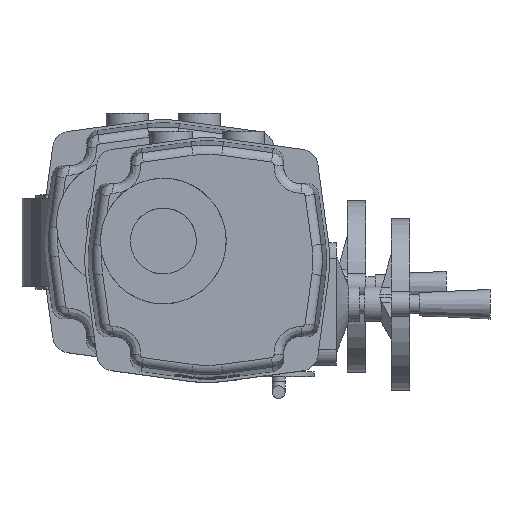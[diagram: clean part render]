
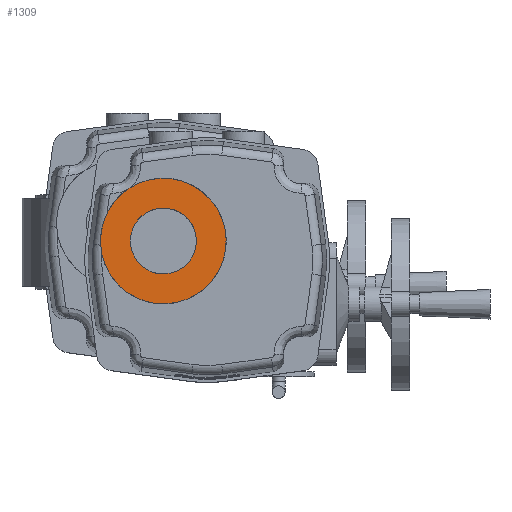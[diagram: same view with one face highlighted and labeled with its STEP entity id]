
A CAD part, top view. The second image highlights one B-rep face of the part: STEP entity #1309.
In plain terms, the highlighted planar face has unit normal (0, 0, 1).
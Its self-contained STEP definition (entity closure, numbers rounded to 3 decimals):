
#1309 = ADVANCED_FACE( '', ( #2810, #2811 ), #2812, .F. );
#2810 = FACE_BOUND( '', #8010, .T. );
#2811 = FACE_OUTER_BOUND( '', #8011, .T. );
#2812 = PLANE( '', #8012 );
#8010 = EDGE_LOOP( '', ( #12747 ) );
#8011 = EDGE_LOOP( '', ( #12748 ) );
#8012 = AXIS2_PLACEMENT_3D( '', #12749, #12750, #12751 );
#12747 = ORIENTED_EDGE( '', *, *, #15346, .T. );
#12748 = ORIENTED_EDGE( '', *, *, #15092, .F. );
#12749 = CARTESIAN_POINT( '', ( -28., 12., 120. ) );
#12750 = DIRECTION( '', ( 0., 0., -1. ) );
#12751 = DIRECTION( '', ( -1., 0., 0. ) );
#15092 = EDGE_CURVE( '', #17604, #17604, #17605, .T. );
#15346 = EDGE_CURVE( '', #17915, #17915, #17916, .T. );
#17604 = VERTEX_POINT( '', #27523 );
#17605 = CIRCLE( '', #27524, 40. );
#17915 = VERTEX_POINT( '', #28643 );
#17916 = CIRCLE( '', #28644, 21. );
#27523 = CARTESIAN_POINT( '', ( -33.409, -27.633, 120. ) );
#27524 = AXIS2_PLACEMENT_3D( '', #30061, #30062, #30063 );
#28643 = CARTESIAN_POINT( '', ( -30.84, -8.807, 120. ) );
#28644 = AXIS2_PLACEMENT_3D( '', #30224, #30225, #30226 );
#30061 = CARTESIAN_POINT( '', ( -28., 12., 120. ) );
#30062 = DIRECTION( '', ( 0., 0., -1. ) );
#30063 = DIRECTION( '', ( -0.135, -0.991, 0. ) );
#30224 = CARTESIAN_POINT( '', ( -28., 12., 120. ) );
#30225 = DIRECTION( '', ( 0., 0., -1. ) );
#30226 = DIRECTION( '', ( -0.135, -0.991, 0. ) );
